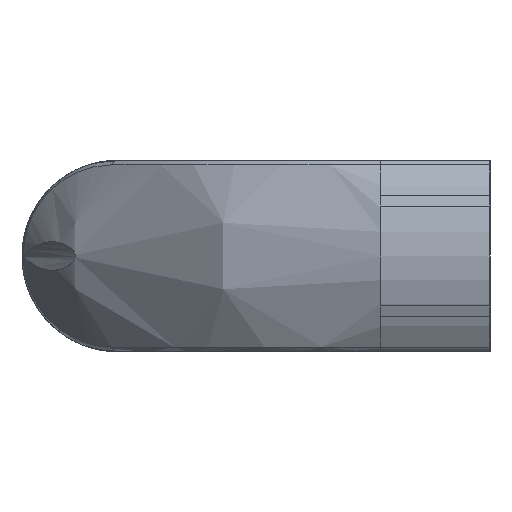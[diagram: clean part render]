
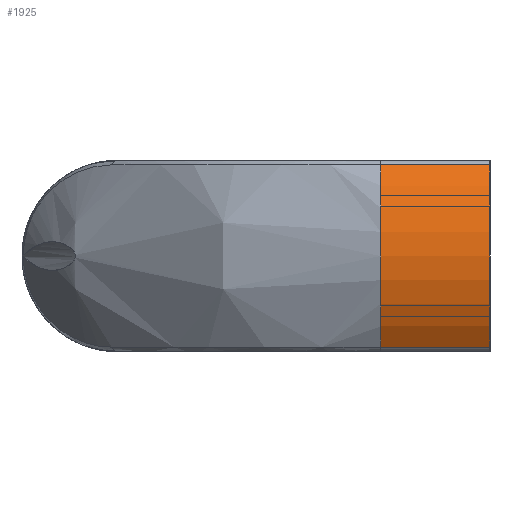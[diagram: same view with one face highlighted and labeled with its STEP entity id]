
A CAD part, left-side view. The second image highlights one B-rep face of the part: STEP entity #1925.
In plain terms, the highlighted cylindrical face has radius 28.521 mm (diameter 57.042 mm), a partial arc.
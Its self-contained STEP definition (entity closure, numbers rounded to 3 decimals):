
#518 = EDGE_CURVE ( 'NONE', #4228, #4287, #699, .T. ) ;
#699 = CIRCLE ( 'NONE', #1662, 28.521 ) ;
#911 = AXIS2_PLACEMENT_3D ( 'NONE', #4087, #1423, #4521 ) ;
#1027 = CARTESIAN_POINT ( 'NONE',  ( -31.122, 0., -16.669 ) ) ;
#1423 = DIRECTION ( 'NONE',  ( 0., 1., 0. ) ) ;
#1580 = CARTESIAN_POINT ( 'NONE',  ( -31.122, 0., 16.669 ) ) ;
#1662 = AXIS2_PLACEMENT_3D ( 'NONE', #4015, #4101, #4108 ) ;
#1925 = ADVANCED_FACE ( 'NONE', ( #4114 ), #3981, .T. ) ;
#2135 = EDGE_CURVE ( 'NONE', #4228, #3244, #3502, .T. ) ;
#2257 = CARTESIAN_POINT ( 'NONE',  ( -31.122, 20., -16.669 ) ) ;
#2372 = LINE ( 'NONE', #3023, #2582 ) ;
#2449 = EDGE_CURVE ( 'NONE', #2529, #4287, #2372, .T. ) ;
#2529 = VERTEX_POINT ( 'NONE', #1580 ) ;
#2582 = VECTOR ( 'NONE', #3126, 1000. ) ;
#2625 = DIRECTION ( 'NONE',  ( 0., -1., 0. ) ) ;
#2940 = AXIS2_PLACEMENT_3D ( 'NONE', #5388, #5422, #5410 ) ;
#3023 = CARTESIAN_POINT ( 'NONE',  ( -31.122, 20., 16.669 ) ) ;
#3126 = DIRECTION ( 'NONE',  ( 0., 1., 0. ) ) ;
#3244 = VERTEX_POINT ( 'NONE', #1027 ) ;
#3388 = CARTESIAN_POINT ( 'NONE',  ( -31.122, 20., -16.669 ) ) ;
#3427 = CARTESIAN_POINT ( 'NONE',  ( -31.122, 20., 16.669 ) ) ;
#3444 = VECTOR ( 'NONE', #2625, 1000. ) ;
#3502 = LINE ( 'NONE', #2257, #3444 ) ;
#3981 = CYLINDRICAL_SURFACE ( 'NONE', #2940, 28.521 ) ;
#4012 = ORIENTED_EDGE ( 'NONE', *, *, #2449, .T. ) ;
#4015 = CARTESIAN_POINT ( 'NONE',  ( -7.979, 20., 0. ) ) ;
#4050 = ORIENTED_EDGE ( 'NONE', *, *, #5170, .T. ) ;
#4064 = ORIENTED_EDGE ( 'NONE', *, *, #2135, .T. ) ;
#4070 = ORIENTED_EDGE ( 'NONE', *, *, #518, .F. ) ;
#4087 = CARTESIAN_POINT ( 'NONE',  ( -7.979, 0., 0. ) ) ;
#4101 = DIRECTION ( 'NONE',  ( 0., 1., 0. ) ) ;
#4102 = CIRCLE ( 'NONE', #911, 28.521 ) ;
#4108 = DIRECTION ( 'NONE',  ( 0., 0., 1. ) ) ;
#4114 = FACE_OUTER_BOUND ( 'NONE', #5543, .T. ) ;
#4228 = VERTEX_POINT ( 'NONE', #3388 ) ;
#4287 = VERTEX_POINT ( 'NONE', #3427 ) ;
#4521 = DIRECTION ( 'NONE',  ( 0., 0., 1. ) ) ;
#5170 = EDGE_CURVE ( 'NONE', #3244, #2529, #4102, .T. ) ;
#5388 = CARTESIAN_POINT ( 'NONE',  ( -7.979, 20., 0. ) ) ;
#5410 = DIRECTION ( 'NONE',  ( 0., 0., -1. ) ) ;
#5422 = DIRECTION ( 'NONE',  ( 0., -1., 0. ) ) ;
#5543 = EDGE_LOOP ( 'NONE', ( #4070, #4064, #4050, #4012 ) ) ;
